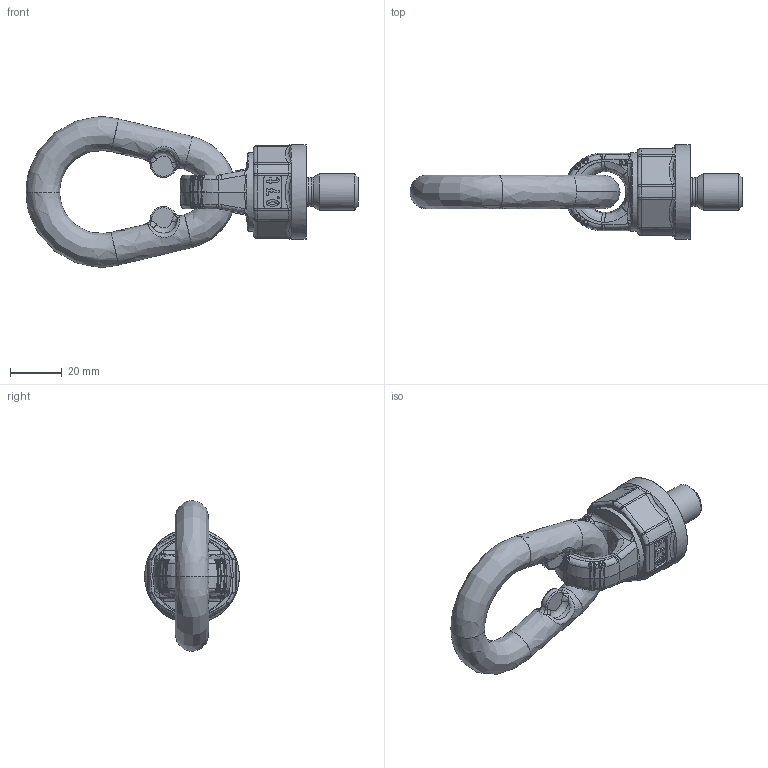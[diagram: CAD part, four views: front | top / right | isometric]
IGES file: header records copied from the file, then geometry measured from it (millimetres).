
Global section: file name: C:\IDEAS\IDEAS-DATEN\Temp\TP0.7_M14x20_senkrecht.igs; preprocessor: I-DEAS 3D IGES Translator 11; date: 20080318.101804; units: millimetre
Bounding box: 128 x 36.49 x 57.95 mm (x, y, z)
Surface area: 14938.8 mm2 (no closed solid volume)
Topology: 0 solids, 0 shells, 567 faces, 2989 edges, 2932 vertices
Faces by surface type: bspline 567
